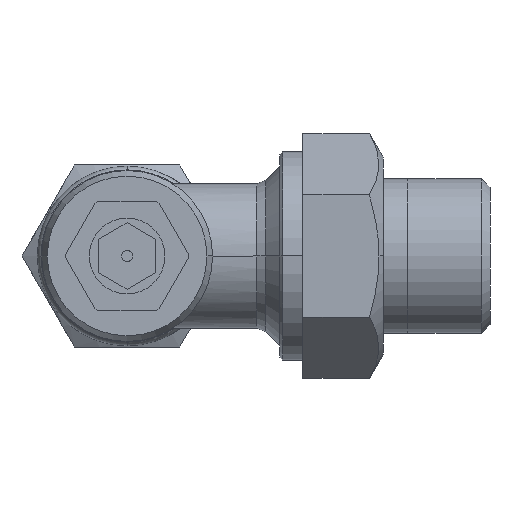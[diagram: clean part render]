
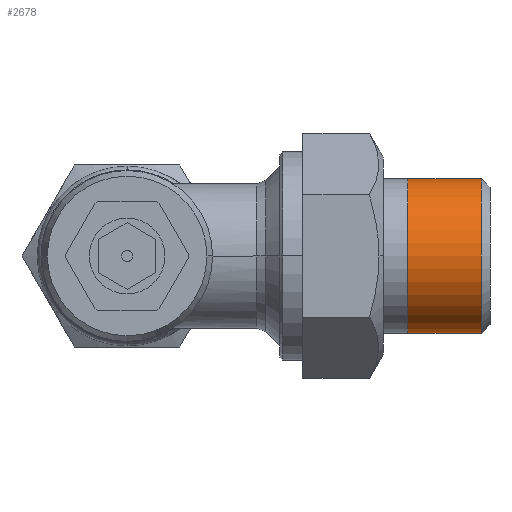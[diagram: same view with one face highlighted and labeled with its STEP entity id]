
A CAD part, front view. The second image highlights one B-rep face of the part: STEP entity #2678.
In plain terms, the highlighted cylindrical face has radius 13.45 mm (diameter 26.9 mm), a partial arc.
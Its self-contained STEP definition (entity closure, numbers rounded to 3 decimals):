
#2578=CARTESIAN_POINT('',(61.5,-15.11,13.45));
#2579=VERTEX_POINT('',#2578);
#2588=CARTESIAN_POINT('',(61.5,-15.11,-13.45));
#2589=VERTEX_POINT('',#2588);
#2590=CARTESIAN_POINT('',(61.5,-15.11,0.));
#2591=DIRECTION('',(1.0,0.0,0.0));
#2592=DIRECTION('',(0.0,0.0,1.0));
#2593=AXIS2_PLACEMENT_3D('',#2590,#2591,#2592);
#2594=CIRCLE('',#2593,13.45);
#2595=EDGE_CURVE('',#2579,#2589,#2594,.T.);
#2647=CARTESIAN_POINT('',(43.769,-15.11,0.));
#2648=DIRECTION('',(-1.0,0.,0.));
#2649=DIRECTION('',(0.0,0.0,-1.0));
#2650=AXIS2_PLACEMENT_3D('',#2647,#2648,#2649);
#2651=CYLINDRICAL_SURFACE('',#2650,13.45);
#2652=CARTESIAN_POINT('',(48.727,-15.11,-13.45));
#2653=VERTEX_POINT('',#2652);
#2654=CARTESIAN_POINT('',(61.5,-15.11,-13.45));
#2655=DIRECTION('',(-1.0,0.0,0.0));
#2656=VECTOR('',#2655,12.773);
#2657=LINE('',#2654,#2656);
#2658=EDGE_CURVE('',#2589,#2653,#2657,.T.);
#2659=ORIENTED_EDGE('',*,*,#2658,.F.);
#2660=ORIENTED_EDGE('',*,*,#2595,.F.);
#2661=CARTESIAN_POINT('',(48.727,-15.11,13.45));
#2662=VERTEX_POINT('',#2661);
#2663=CARTESIAN_POINT('',(48.727,-15.11,13.45));
#2664=DIRECTION('',(1.0,0.0,0.0));
#2665=VECTOR('',#2664,12.773);
#2666=LINE('',#2663,#2665);
#2667=EDGE_CURVE('',#2662,#2579,#2666,.T.);
#2668=ORIENTED_EDGE('',*,*,#2667,.F.);
#2669=CARTESIAN_POINT('',(48.727,-15.11,0.));
#2670=DIRECTION('',(-1.0,0.0,0.0));
#2671=DIRECTION('',(0.0,0.0,-1.0));
#2672=AXIS2_PLACEMENT_3D('',#2669,#2670,#2671);
#2673=CIRCLE('',#2672,13.45);
#2674=EDGE_CURVE('',#2653,#2662,#2673,.T.);
#2675=ORIENTED_EDGE('',*,*,#2674,.F.);
#2676=EDGE_LOOP('',(#2659,#2660,#2668,#2675));
#2677=FACE_OUTER_BOUND('',#2676,.T.);
#2678=ADVANCED_FACE('',(#2677),#2651,.T.);
